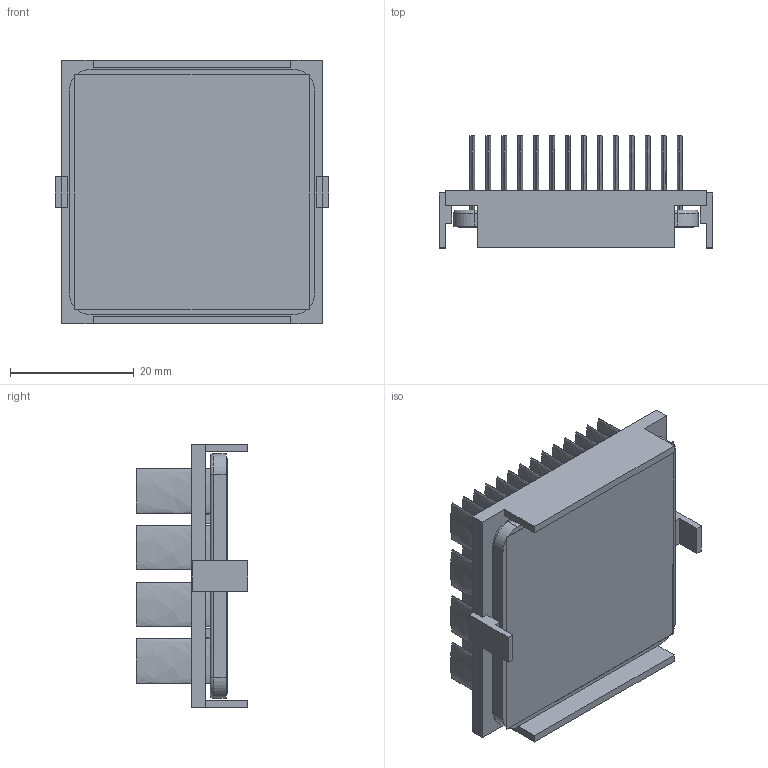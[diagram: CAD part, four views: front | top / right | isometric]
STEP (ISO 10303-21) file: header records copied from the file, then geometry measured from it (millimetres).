
FILE_DESCRIPTION (( 'STEP AP214' ), '1' );
FILE_NAME ('INM40001-15W-2.6Y.STEP', '2023-02-21T17:38:14', ( '' ), ( '' ), 'SwSTEP 2.0', 'SolidWorks 2020', '' );
FILE_SCHEMA (( 'AUTOMOTIVE_DESIGN' ));
Length unit declared in the file: inch
Products named in the file (1): INM40001-15W-2.6Y
Bounding box: 44.2 x 18.1 x 42.7 mm (x, y, z)
Volume: 9308.4 mm3; surface area: 19380.1 mm2
Topology: 3 solids, 3 shells, 250 faces, 556 edges, 368 vertices
Faces by surface type: plane 126, bspline 112, cylinder 8, torus 4
Entity records: 10428 total; most frequent: CARTESIAN_POINT 2631, ORIENTED_EDGE 1112, DIRECTION 630, EDGE_CURVE 556, VERTEX_POINT 368, VECTOR 312, LINE 312, EDGE_LOOP 308
